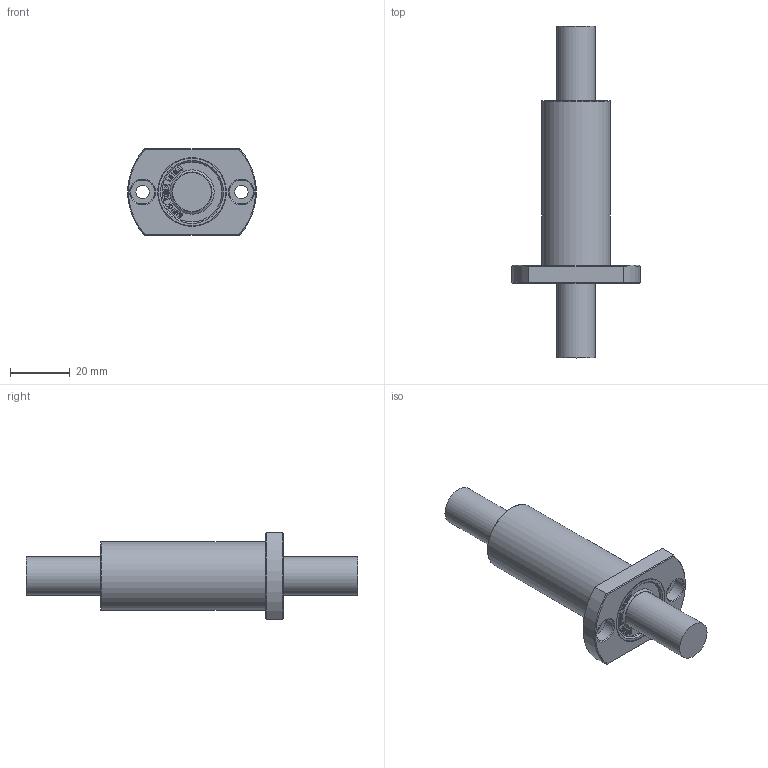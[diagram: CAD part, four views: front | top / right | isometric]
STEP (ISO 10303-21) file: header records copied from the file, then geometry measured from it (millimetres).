
FILE_DESCRIPTION(/* description */ (''),/* implementation_level */ '2;1');
FILE_NAME(/* name */ 'W:\(01) 2024년 홈페이지 CAD파일 최신화\LMH_L\IPT\LMH13LUU.stp',/* time_stamp */ '2025-01-23T10:14:45+09:00',/* author */ ('서우현'),/* organization */ (''),/* preprocessor_version */ 'ST-DEVELOPER v17.2',/* originating_system */ 'Autodesk Inventor 2019',/* authorisation */ '');
FILE_SCHEMA (('AUTOMOTIVE_DESIGN { 1 0 10303 214 3 1 1 }'));
Length unit declared in the file: millimetre
Products named in the file (1): LM5
Bounding box: 42.85 x 111 x 29 mm (x, y, z)
Volume: 35506 mm3; surface area: 9392.7 mm2
Topology: 1 solids, 1 shells, 860 faces, 2426 edges, 1620 vertices
Faces by surface type: bspline 604, plane 230, cone 12, cylinder 12, torus 2
Full cylindrical faces by diameter (mm): 4.5 x2, 8 x2, 13 x2, 20 x2, 23 x2
Entity records: 29346 total; most frequent: CARTESIAN_POINT 10359, ORIENTED_EDGE 4852, EDGE_CURVE 2426, DIRECTION 1790, VERTEX_POINT 1620, B_SPLINE_CURVE_WITH_KNOTS 1208, LINE 1144, VECTOR 1144
